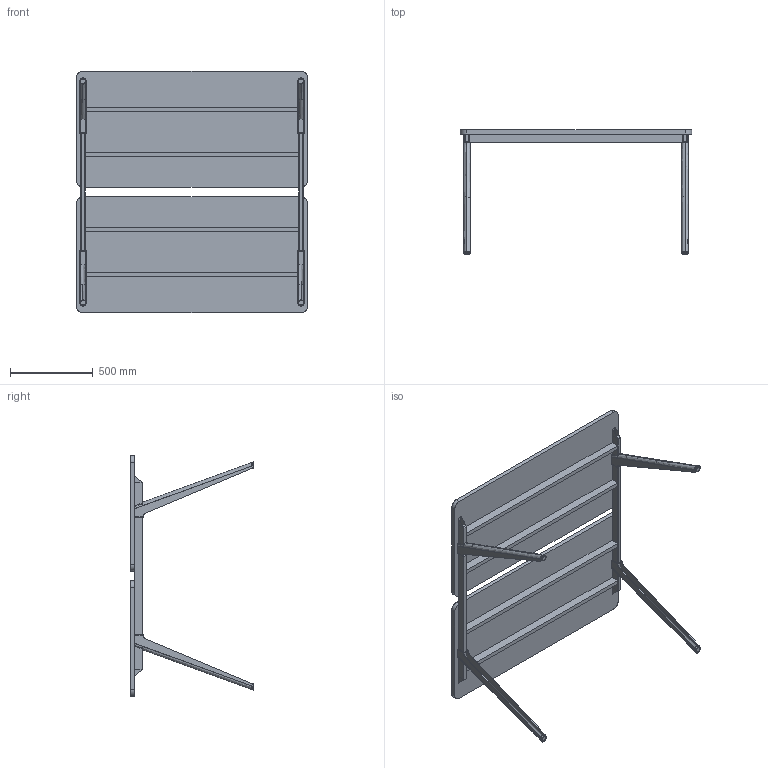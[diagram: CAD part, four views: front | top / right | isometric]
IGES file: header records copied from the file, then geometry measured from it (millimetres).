
Start section: SolidWorks IGES file using analytic representation for surfaces
Global section: file name: C:\Users\simone.cerana\OneDrive - Gruppo Tecno\Desktop\CHINA\DISEGNI DI SERIE\ASSIEMI LISTINO\HORIZON LISTINO\HO1414ST.IGS; native system: SolidWorks 2024; preprocessor: SolidWorks 2024; author: simone.cerana; date: 260508.124128; units: millimetre
Bounding box: 1400 x 749.83 x 1460 mm (x, y, z)
Surface area: 5671746.4 mm2 (no closed solid volume)
Topology: 0 solids, 0 shells, 284 faces, 3792 edges, 3792 vertices
Faces by surface type: bspline 192, revolution 92
